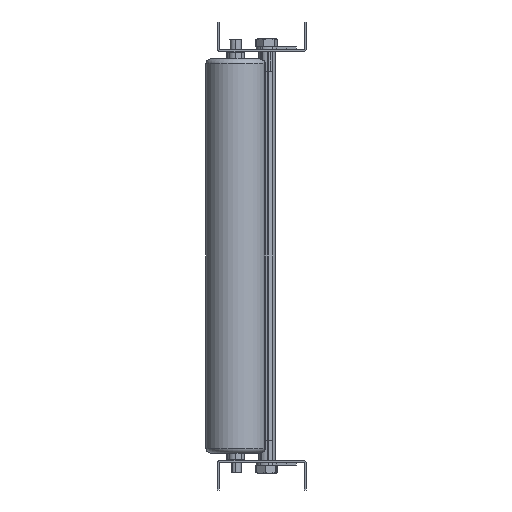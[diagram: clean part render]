
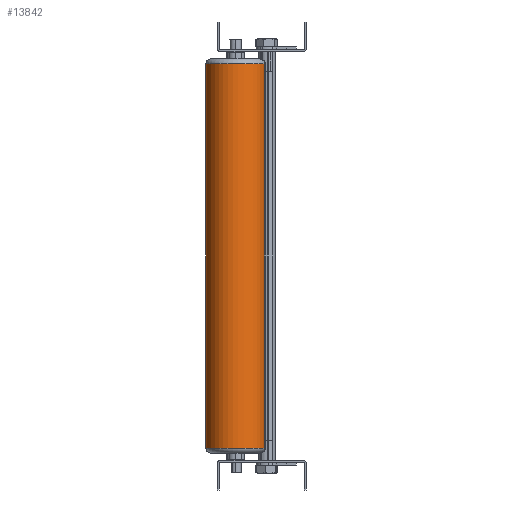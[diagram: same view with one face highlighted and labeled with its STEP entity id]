
A CAD part, left-side view. The second image highlights one B-rep face of the part: STEP entity #13842.
In plain terms, the highlighted cylindrical face has radius 30.25 mm (diameter 60.5 mm), a partial arc.
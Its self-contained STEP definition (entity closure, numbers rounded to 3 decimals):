
#488 = CARTESIAN_POINT ( 'NONE',  ( -3190.559, 573.799, 661.827 ) ) ;
#1006 = VECTOR ( 'NONE', #29164, 1000. ) ;
#2673 = ORIENTED_EDGE ( 'NONE', *, *, #25810, .T. ) ;
#3297 = ORIENTED_EDGE ( 'NONE', *, *, #11865, .F. ) ;
#5515 = DIRECTION ( 'NONE',  ( 0., 0., 1. ) ) ;
#6170 = VERTEX_POINT ( 'NONE', #24806 ) ;
#6252 = CARTESIAN_POINT ( 'NONE',  ( -3182.991, 603.087, 266.827 ) ) ;
#7181 = LINE ( 'NONE', #24868, #29704 ) ;
#8669 = AXIS2_PLACEMENT_3D ( 'NONE', #6252, #5515, #23199 ) ;
#9827 = CARTESIAN_POINT ( 'NONE',  ( -3175.423, 632.375, 656.827 ) ) ;
#10212 = DIRECTION ( 'NONE',  ( 0., 0., -1. ) ) ;
#10262 = CYLINDRICAL_SURFACE ( 'NONE', #15598, 30.25 ) ;
#11092 = CIRCLE ( 'NONE', #8669, 30.25 ) ;
#11557 = CARTESIAN_POINT ( 'NONE',  ( -3175.423, 632.375, 266.827 ) ) ;
#11865 = EDGE_CURVE ( 'NONE', #27958, #6170, #32187, .T. ) ;
#13842 = ADVANCED_FACE ( 'NONE', ( #36288 ), #10262, .T. ) ;
#14189 = EDGE_CURVE ( 'NONE', #27958, #15216, #32006, .T. ) ;
#14262 = ORIENTED_EDGE ( 'NONE', *, *, #14189, .T. ) ;
#14420 = CARTESIAN_POINT ( 'NONE',  ( -3182.991, 603.087, 661.827 ) ) ;
#15216 = VERTEX_POINT ( 'NONE', #9827 ) ;
#15598 = AXIS2_PLACEMENT_3D ( 'NONE', #14420, #31319, #25818 ) ;
#16087 = CARTESIAN_POINT ( 'NONE',  ( -3182.991, 603.087, 656.827 ) ) ;
#21907 = EDGE_CURVE ( 'NONE', #15216, #30929, #7181, .T. ) ;
#23199 = DIRECTION ( 'NONE',  ( 0.25, 0.968, 0. ) ) ;
#24759 = AXIS2_PLACEMENT_3D ( 'NONE', #16087, #10212, #36427 ) ;
#24806 = CARTESIAN_POINT ( 'NONE',  ( -3190.559, 573.799, 266.827 ) ) ;
#24868 = CARTESIAN_POINT ( 'NONE',  ( -3175.423, 632.375, 661.827 ) ) ;
#25810 = EDGE_CURVE ( 'NONE', #30929, #6170, #11092, .T. ) ;
#25818 = DIRECTION ( 'NONE',  ( -0.25, -0.968, 0. ) ) ;
#26229 = ORIENTED_EDGE ( 'NONE', *, *, #21907, .T. ) ;
#27958 = VERTEX_POINT ( 'NONE', #29591 ) ;
#29164 = DIRECTION ( 'NONE',  ( 0., 0., -1. ) ) ;
#29591 = CARTESIAN_POINT ( 'NONE',  ( -3190.559, 573.799, 656.827 ) ) ;
#29704 = VECTOR ( 'NONE', #30356, 1000. ) ;
#30356 = DIRECTION ( 'NONE',  ( 0., 0., -1. ) ) ;
#30929 = VERTEX_POINT ( 'NONE', #11557 ) ;
#31319 = DIRECTION ( 'NONE',  ( 0., 0., -1. ) ) ;
#32006 = CIRCLE ( 'NONE', #24759, 30.25 ) ;
#32187 = LINE ( 'NONE', #488, #1006 ) ;
#35820 = EDGE_LOOP ( 'NONE', ( #14262, #26229, #2673, #3297 ) ) ;
#36288 = FACE_OUTER_BOUND ( 'NONE', #35820, .T. ) ;
#36427 = DIRECTION ( 'NONE',  ( 0.25, 0.968, 0. ) ) ;
